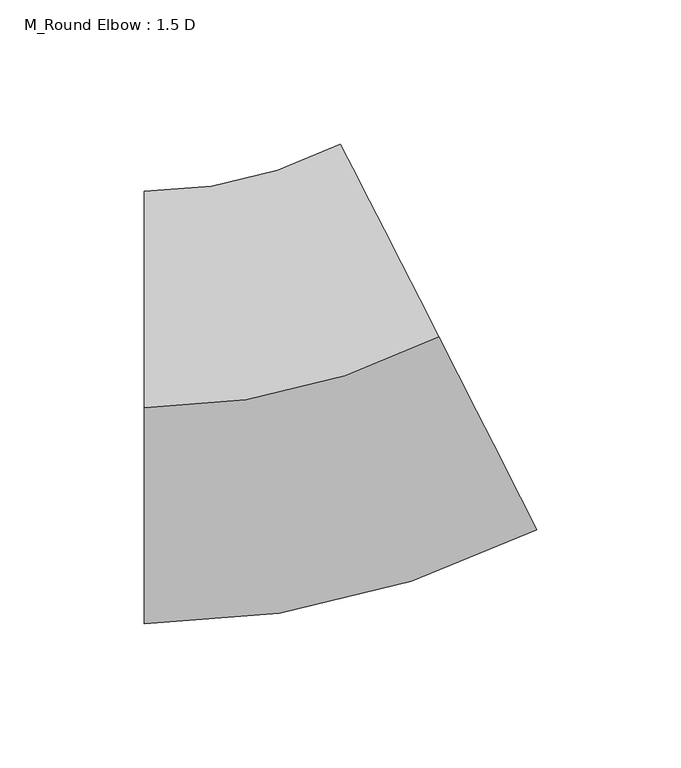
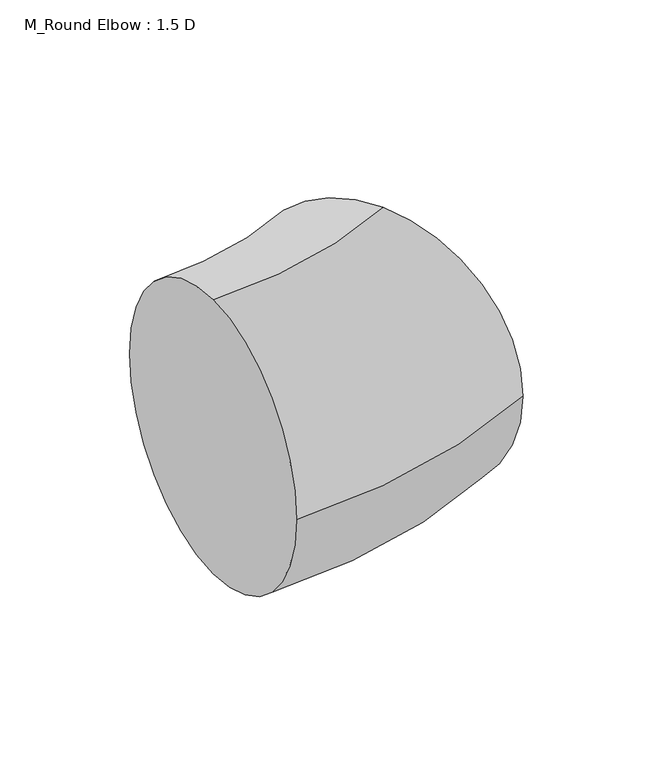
"""IFC4 building model written with IfcOpenShell, lengths in millimetres: duct fitting geometry, M_Round Elbow : 1.5 D."""

from ifc_helpers import new_model, si_unit, point, frame, origin, place, context, project, spatial, circle_curve, ellipse_curve, trimmed, source, transform, mapped, element, save
from ifc_brep_helpers import plane_surface, revolved_surface, advanced_brep


def m_round_elbow_1_5_d_e77d2968(model_context):
    return source(origin(), model_context, "Body", "AdvancedBrep", [
        advanced_brep(
        [(-54.0177208, 0.0, 75.0), (-54.0177208, 75.0, 0.0), (-54.0177208, 0.0, -75.0), (-54.0177208, -75.0, 0.0), (48.1301416, 24.5235321, 75.0), (82.1794291, -42.3019573, 0.0), (48.1301416, 24.5235321, -75.0), (14.0808542, 91.3490214, 0.0)],
        [
            (0, 1, circle_curve(frame((-54.0177208, 0.0, 0.0), z_axis=(-1.0, 0.0, 0.0), x_axis=(0.0, 1.0, 0.0)), 75.0)),
            (1, 2, circle_curve(frame((-54.0177208, 0.0, 0.0), z_axis=(-1.0, 0.0, 0.0), x_axis=(0.0, 1.0, 0.0)), 75.0)),
            (2, 3, circle_curve(frame((-54.0177208, 0.0, 0.0), z_axis=(-1.0, 0.0, 0.0), x_axis=(0.0, 1.0, 0.0)), 75.0)),
            (3, 0, circle_curve(frame((-54.0177208, 0.0, 0.0), z_axis=(-1.0, 0.0, 0.0), x_axis=(0.0, 1.0, 0.0)), 75.0)),
            (4, 5, circle_curve(frame((48.1301416, 24.5235321, 0.0), z_axis=(0.8910065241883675, 0.45399049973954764, 0.0), x_axis=(-0.45399049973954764, 0.8910065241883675, 0.0)), 75.0)),
            (5, 6, circle_curve(frame((48.1301416, 24.5235321, 0.0), z_axis=(0.8910065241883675, 0.45399049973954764, 0.0), x_axis=(-0.45399049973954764, 0.8910065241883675, 0.0)), 75.0)),
            (6, 7, circle_curve(frame((48.1301416, 24.5235321, 0.0), z_axis=(0.8910065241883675, 0.45399049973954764, 0.0), x_axis=(-0.45399049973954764, 0.8910065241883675, 0.0)), 75.0)),
            (7, 4, circle_curve(frame((48.1301416, 24.5235321, 0.0), z_axis=(0.8910065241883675, 0.45399049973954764, 0.0), x_axis=(-0.45399049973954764, 0.8910065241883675, 0.0)), 75.0)),
            (7, 1, circle_curve(frame((-54.0177208, 225.0, 0.0), z_axis=(0.0, 0.0, -1.0), x_axis=(0.0, -1.0, 0.0)), 150.0)),
            (0, 4, circle_curve(frame((-54.0177208, 225.0, 75.0), z_axis=(0.0, 0.0, 1.0), x_axis=(0.0, -1.0, 0.0)), 225.0)),
            (6, 2, circle_curve(frame((-54.0177208, 225.0, -75.0), z_axis=(0.0, 0.0, -1.0), x_axis=(0.0, -1.0, 0.0)), 225.0)),
            (5, 3, circle_curve(frame((-54.0177208, 225.0, 0.0), z_axis=(0.0, 0.0, -1.0), x_axis=(0.0, -1.0, 0.0)), 300.0)),
        ],
        [
            plane_surface(frame((-54.0177208, 0.0, 0.0), z_axis=(-1.0, 0.0, 0.0), x_axis=(0.0, 0.0, 1.0))),
            plane_surface(frame((48.1301416, 24.5235321, 0.0), z_axis=(0.8910065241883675, 0.4539904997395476, 0.0), x_axis=(0.0, 0.0, 1.0))),
            revolved_surface(trimmed(ellipse_curve(frame((-54.0177208, 0.0, 0.0), z_axis=(-1.0, 0.0, 0.0), x_axis=(0.0, 1.0, 0.0)), 75.0, 75.0), [point((-54.0177208, 0.0, 75.0))], [point((-54.0177208, 75.0, 0.0))], True, "CARTESIAN"), (-54.0177208, 225.0, 0.0), (0.0, 0.0, 1.0)),
            revolved_surface(trimmed(ellipse_curve(frame((-54.0177208, 0.0, 0.0), z_axis=(-1.0, 0.0, 0.0), x_axis=(0.0, 1.0, 0.0)), 75.0, 75.0), [point((-54.0177208, 75.0, 0.0))], [point((-54.0177208, 0.0, -75.0))], True, "CARTESIAN"), (-54.0177208, 225.0, 0.0), (0.0, 0.0, 1.0)),
            revolved_surface(trimmed(ellipse_curve(frame((-54.0177208, 0.0, 0.0), z_axis=(-1.0, 0.0, 0.0), x_axis=(0.0, 1.0, 0.0)), 75.0, 75.0), [point((-54.0177208, 0.0, -75.0))], [point((-54.0177208, -75.0, 0.0))], True, "CARTESIAN"), (-54.0177208, 225.0, 0.0), (0.0, 0.0, 1.0)),
            revolved_surface(trimmed(ellipse_curve(frame((-54.0177208, 0.0, 0.0), z_axis=(-1.0, 0.0, 0.0), x_axis=(0.0, 1.0, 0.0)), 75.0, 75.0), [point((-54.0177208, -75.0, 0.0))], [point((-54.0177208, 0.0, 75.0))], True, "CARTESIAN"), (-54.0177208, 225.0, 0.0), (0.0, 0.0, 1.0)),
        ],
        [
            (0, [[1, 2, 3, 4]]),
            (1, [[5, 6, 7, 8]]),
            (2, [[9, -1, 10, -8]]),
            (3, [[11, -2, -9, -7]]),
            (4, [[12, -3, -11, -6]]),
            (5, [[-10, -4, -12, -5]]),
        ],
    ),
        advanced_brep(
        [(-54.0177208, 0.0, 75.0), (-54.0177208, 75.0, 0.0), (-54.0177208, 0.0, -75.0), (-54.0177208, -75.0, 0.0), (48.1301416, 24.5235321, 75.0), (82.1794291, -42.3019573, 0.0), (48.1301416, 24.5235321, -75.0), (14.0808542, 91.3490214, 0.0)],
        [
            (0, 1, circle_curve(frame((-54.0177208, 0.0, 0.0), z_axis=(-1.0, 0.0, 0.0), x_axis=(0.0, 1.0, 0.0)), 75.0)),
            (1, 2, circle_curve(frame((-54.0177208, 0.0, 0.0), z_axis=(-1.0, 0.0, 0.0), x_axis=(0.0, 1.0, 0.0)), 75.0)),
            (2, 3, circle_curve(frame((-54.0177208, 0.0, 0.0), z_axis=(-1.0, 0.0, 0.0), x_axis=(0.0, 1.0, 0.0)), 75.0)),
            (3, 0, circle_curve(frame((-54.0177208, 0.0, 0.0), z_axis=(-1.0, 0.0, 0.0), x_axis=(0.0, 1.0, 0.0)), 75.0)),
            (4, 5, circle_curve(frame((48.1301416, 24.5235321, 0.0), z_axis=(0.8910065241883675, 0.45399049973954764, 0.0), x_axis=(-0.45399049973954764, 0.8910065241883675, 0.0)), 75.0)),
            (5, 6, circle_curve(frame((48.1301416, 24.5235321, 0.0), z_axis=(0.8910065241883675, 0.45399049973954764, 0.0), x_axis=(-0.45399049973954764, 0.8910065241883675, 0.0)), 75.0)),
            (6, 7, circle_curve(frame((48.1301416, 24.5235321, 0.0), z_axis=(0.8910065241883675, 0.45399049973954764, 0.0), x_axis=(-0.45399049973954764, 0.8910065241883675, 0.0)), 75.0)),
            (7, 4, circle_curve(frame((48.1301416, 24.5235321, 0.0), z_axis=(0.8910065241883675, 0.45399049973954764, 0.0), x_axis=(-0.45399049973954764, 0.8910065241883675, 0.0)), 75.0)),
            (7, 1, circle_curve(frame((-54.0177208, 225.0, 0.0), z_axis=(0.0, 0.0, -1.0), x_axis=(0.0, -1.0, 0.0)), 150.0)),
            (0, 4, circle_curve(frame((-54.0177208, 225.0, 75.0), z_axis=(0.0, 0.0, 1.0), x_axis=(0.0, -1.0, 0.0)), 225.0)),
            (6, 2, circle_curve(frame((-54.0177208, 225.0, -75.0), z_axis=(0.0, 0.0, -1.0), x_axis=(0.0, -1.0, 0.0)), 225.0)),
            (5, 3, circle_curve(frame((-54.0177208, 225.0, 0.0), z_axis=(0.0, 0.0, -1.0), x_axis=(0.0, -1.0, 0.0)), 300.0)),
        ],
        [
            plane_surface(frame((-54.0177208, 0.0, 0.0), z_axis=(-1.0, 0.0, 0.0), x_axis=(0.0, 0.0, 1.0))),
            plane_surface(frame((48.1301416, 24.5235321, 0.0), z_axis=(0.8910065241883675, 0.4539904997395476, 0.0), x_axis=(0.0, 0.0, 1.0))),
            revolved_surface(trimmed(ellipse_curve(frame((-54.0177208, 0.0, 0.0), z_axis=(-1.0, 0.0, 0.0), x_axis=(0.0, 1.0, 0.0)), 75.0, 75.0), [point((-54.0177208, 0.0, 75.0))], [point((-54.0177208, 75.0, 0.0))], True, "CARTESIAN"), (-54.0177208, 225.0, 0.0), (0.0, 0.0, 1.0)),
            revolved_surface(trimmed(ellipse_curve(frame((-54.0177208, 0.0, 0.0), z_axis=(-1.0, 0.0, 0.0), x_axis=(0.0, 1.0, 0.0)), 75.0, 75.0), [point((-54.0177208, 75.0, 0.0))], [point((-54.0177208, 0.0, -75.0))], True, "CARTESIAN"), (-54.0177208, 225.0, 0.0), (0.0, 0.0, 1.0)),
            revolved_surface(trimmed(ellipse_curve(frame((-54.0177208, 0.0, 0.0), z_axis=(-1.0, 0.0, 0.0), x_axis=(0.0, 1.0, 0.0)), 75.0, 75.0), [point((-54.0177208, 0.0, -75.0))], [point((-54.0177208, -75.0, 0.0))], True, "CARTESIAN"), (-54.0177208, 225.0, 0.0), (0.0, 0.0, 1.0)),
            revolved_surface(trimmed(ellipse_curve(frame((-54.0177208, 0.0, 0.0), z_axis=(-1.0, 0.0, 0.0), x_axis=(0.0, 1.0, 0.0)), 75.0, 75.0), [point((-54.0177208, -75.0, 0.0))], [point((-54.0177208, 0.0, 75.0))], True, "CARTESIAN"), (-54.0177208, 225.0, 0.0), (0.0, 0.0, 1.0)),
        ],
        [
            (0, [[1, 2, 3, 4]]),
            (1, [[5, 6, 7, 8]]),
            (2, [[9, -1, 10, -8]]),
            (3, [[11, -2, -9, -7]]),
            (4, [[12, -3, -11, -6]]),
            (5, [[-10, -4, -12, -5]]),
        ],
    ),
        advanced_brep(
        [(-54.0177208, 0.0, 75.0), (-54.0177208, 75.0, 0.0), (-54.0177208, 0.0, -75.0), (-54.0177208, -75.0, 0.0), (48.1301416, 24.5235321, 75.0), (82.1794291, -42.3019573, 0.0), (48.1301416, 24.5235321, -75.0), (14.0808542, 91.3490214, 0.0)],
        [
            (0, 1, circle_curve(frame((-54.0177208, 0.0, 0.0), z_axis=(-1.0, 0.0, 0.0), x_axis=(0.0, 1.0, 0.0)), 75.0)),
            (1, 2, circle_curve(frame((-54.0177208, 0.0, 0.0), z_axis=(-1.0, 0.0, 0.0), x_axis=(0.0, 1.0, 0.0)), 75.0)),
            (2, 3, circle_curve(frame((-54.0177208, 0.0, 0.0), z_axis=(-1.0, 0.0, 0.0), x_axis=(0.0, 1.0, 0.0)), 75.0)),
            (3, 0, circle_curve(frame((-54.0177208, 0.0, 0.0), z_axis=(-1.0, 0.0, 0.0), x_axis=(0.0, 1.0, 0.0)), 75.0)),
            (4, 5, circle_curve(frame((48.1301416, 24.5235321, 0.0), z_axis=(0.8910065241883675, 0.45399049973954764, 0.0), x_axis=(-0.45399049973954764, 0.8910065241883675, 0.0)), 75.0)),
            (5, 6, circle_curve(frame((48.1301416, 24.5235321, 0.0), z_axis=(0.8910065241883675, 0.45399049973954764, 0.0), x_axis=(-0.45399049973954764, 0.8910065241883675, 0.0)), 75.0)),
            (6, 7, circle_curve(frame((48.1301416, 24.5235321, 0.0), z_axis=(0.8910065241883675, 0.45399049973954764, 0.0), x_axis=(-0.45399049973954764, 0.8910065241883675, 0.0)), 75.0)),
            (7, 4, circle_curve(frame((48.1301416, 24.5235321, 0.0), z_axis=(0.8910065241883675, 0.45399049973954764, 0.0), x_axis=(-0.45399049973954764, 0.8910065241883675, 0.0)), 75.0)),
            (7, 1, circle_curve(frame((-54.0177208, 225.0, 0.0), z_axis=(0.0, 0.0, -1.0), x_axis=(0.0, -1.0, 0.0)), 150.0)),
            (0, 4, circle_curve(frame((-54.0177208, 225.0, 75.0), z_axis=(0.0, 0.0, 1.0), x_axis=(0.0, -1.0, 0.0)), 225.0)),
            (6, 2, circle_curve(frame((-54.0177208, 225.0, -75.0), z_axis=(0.0, 0.0, -1.0), x_axis=(0.0, -1.0, 0.0)), 225.0)),
            (5, 3, circle_curve(frame((-54.0177208, 225.0, 0.0), z_axis=(0.0, 0.0, -1.0), x_axis=(0.0, -1.0, 0.0)), 300.0)),
        ],
        [
            plane_surface(frame((-54.0177208, 0.0, 0.0), z_axis=(-1.0, 0.0, 0.0), x_axis=(0.0, 0.0, 1.0))),
            plane_surface(frame((48.1301416, 24.5235321, 0.0), z_axis=(0.8910065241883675, 0.4539904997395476, 0.0), x_axis=(0.0, 0.0, 1.0))),
            revolved_surface(trimmed(ellipse_curve(frame((-54.0177208, 0.0, 0.0), z_axis=(-1.0, 0.0, 0.0), x_axis=(0.0, 1.0, 0.0)), 75.0, 75.0), [point((-54.0177208, 0.0, 75.0))], [point((-54.0177208, 75.0, 0.0))], True, "CARTESIAN"), (-54.0177208, 225.0, 0.0), (0.0, 0.0, 1.0)),
            revolved_surface(trimmed(ellipse_curve(frame((-54.0177208, 0.0, 0.0), z_axis=(-1.0, 0.0, 0.0), x_axis=(0.0, 1.0, 0.0)), 75.0, 75.0), [point((-54.0177208, 75.0, 0.0))], [point((-54.0177208, 0.0, -75.0))], True, "CARTESIAN"), (-54.0177208, 225.0, 0.0), (0.0, 0.0, 1.0)),
            revolved_surface(trimmed(ellipse_curve(frame((-54.0177208, 0.0, 0.0), z_axis=(-1.0, 0.0, 0.0), x_axis=(0.0, 1.0, 0.0)), 75.0, 75.0), [point((-54.0177208, 0.0, -75.0))], [point((-54.0177208, -75.0, 0.0))], True, "CARTESIAN"), (-54.0177208, 225.0, 0.0), (0.0, 0.0, 1.0)),
            revolved_surface(trimmed(ellipse_curve(frame((-54.0177208, 0.0, 0.0), z_axis=(-1.0, 0.0, 0.0), x_axis=(0.0, 1.0, 0.0)), 75.0, 75.0), [point((-54.0177208, -75.0, 0.0))], [point((-54.0177208, 0.0, 75.0))], True, "CARTESIAN"), (-54.0177208, 225.0, 0.0), (0.0, 0.0, 1.0)),
        ],
        [
            (0, [[1, 2, 3, 4]]),
            (1, [[5, 6, 7, 8]]),
            (2, [[9, -1, 10, -8]]),
            (3, [[11, -2, -9, -7]]),
            (4, [[12, -3, -11, -6]]),
            (5, [[-10, -4, -12, -5]]),
        ],
    ),
    ])


if __name__ == "__main__":
    model = new_model("IFC4")
    model_context = context("Model", 3, world=origin())
    ifc_project = project(units=[si_unit("LENGTHUNIT", "METRE", prefix="MILLI")], contexts=[model_context])
    site = spatial("IfcSite", under=ifc_project)
    building = spatial("IfcBuilding", under=site)
    placement = place(None, origin())
    m_round_elbow_1_5_d_shape = m_round_elbow_1_5_d_e77d2968(model_context)
    element("IfcDuctFitting", 1, ObjectType="M_Round Elbow : 1.5 D", at=placement, inside=building, context=model_context, shape_type="MappedRepresentation", body=[
        mapped(m_round_elbow_1_5_d_shape, transform((0.0, 0.0, 0.0), x_axis=(1.0, 0.0, 0.0), y_axis=(0.0, 1.0, 0.0), z_axis=(0.0, 0.0, 1.0))),
    ])
    save(model, "model.ifc")
